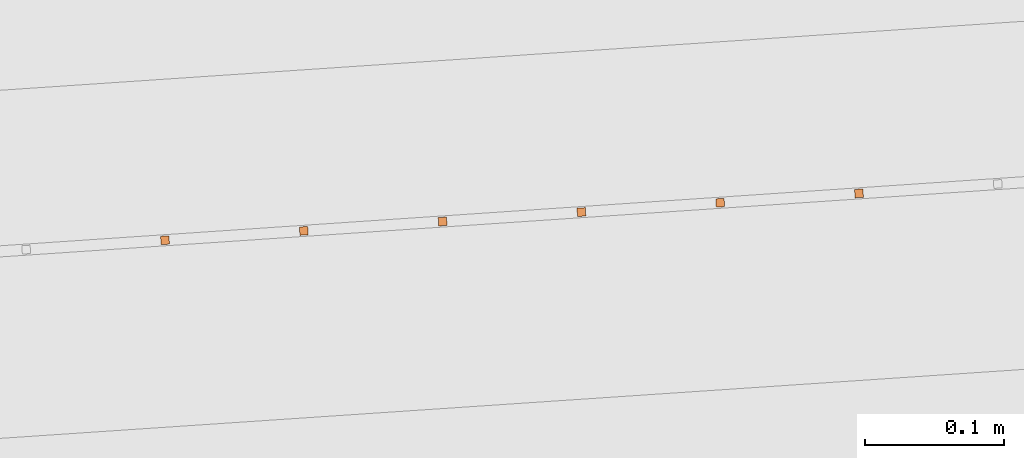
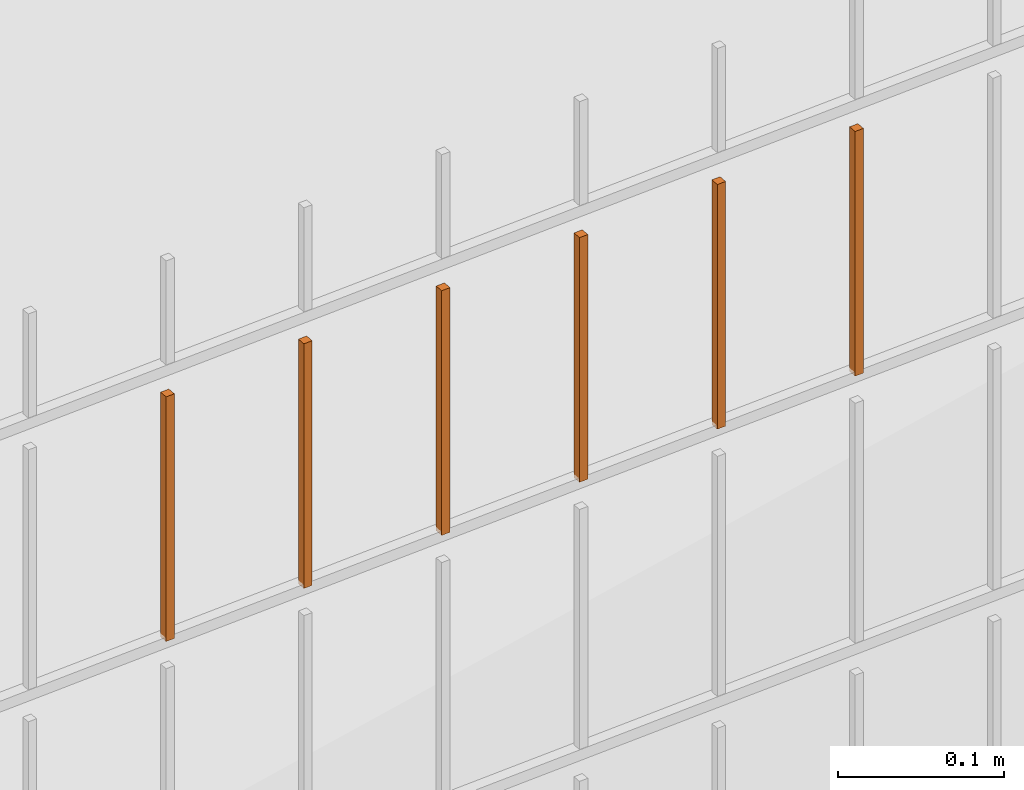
# One storey, part 102 of 1809: 6 proxies, 1 element without a shape of its own.
"""IFC2X3 building model written with IfcOpenShell, lengths in millimetres."""

from ifc_helpers import new_model, entity, si_unit, converted_unit, derived_unit, money_unit, direction, frame, origin_with_axes, place, context, subcontext, project, spatial, faceted_brep, source, transform, mapped, material, type_object, element, aggregate, save


model = new_model("IFC2X3")

# Units and contexts
model_context = context("Model", 3, precision=0.01, world=origin_with_axes(), true_north=direction((0.0, 1.0)))
body_context = subcontext(model_context, "Body", "Model", "MODEL_VIEW")
ifc_project = project(units=[si_unit("LENGTHUNIT", "METRE", prefix="MILLI"), si_unit("AREAUNIT", "SQUARE_METRE"), si_unit("VOLUMEUNIT", "CUBIC_METRE"), converted_unit("PLANEANGLEUNIT", "DEGREE", entity("IfcPlaneAngleMeasure", 0.0174532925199), si_unit("PLANEANGLEUNIT", "RADIAN"), dimensions=[0, 0, 0, 0, 0, 0, 0]), si_unit("SOLIDANGLEUNIT", "STERADIAN"), money_unit("EUR"), converted_unit("TIMEUNIT", "Year", entity("IfcTimeMeasure", 31556926.0), si_unit("TIMEUNIT", "SECOND"), dimensions=[0, 0, 1, 0, 0, 0, 0]), si_unit("MASSUNIT", "GRAM", prefix="KILO"), si_unit("THERMODYNAMICTEMPERATUREUNIT", "DEGREE_CELSIUS"), si_unit("LUMINOUSINTENSITYUNIT", "LUMEN"), si_unit("ENERGYUNIT", "JOULE", prefix="MEGA"), derived_unit("THERMALCONDUCTANCEUNIT", [(si_unit("POWERUNIT", "WATT"), 1), (si_unit("LENGTHUNIT", "METRE"), -1), (si_unit("THERMODYNAMICTEMPERATUREUNIT", "KELVIN"), -1)]), derived_unit("SPECIFICHEATCAPACITYUNIT", [(si_unit("ENERGYUNIT", "JOULE"), 1), (si_unit("MASSUNIT", "GRAM", prefix="KILO"), -1), (si_unit("THERMODYNAMICTEMPERATUREUNIT", "KELVIN"), -1)]), derived_unit("MASSDENSITYUNIT", [(si_unit("MASSUNIT", "GRAM", prefix="KILO"), 1), (si_unit("VOLUMEUNIT", "CUBIC_METRE"), -1)])], contexts=[model_context])

# Site, building, storey
site_placement = place(None, origin_with_axes())
site = spatial("IfcSite", under=ifc_project, at=site_placement, Name="Politse- ja Piirivalveameti ning Päästeameti ühishoone", CompositionType="ELEMENT")
building_placement = place(site_placement, origin_with_axes())
building = spatial("IfcBuilding", under=site, at=building_placement, Name="Politse- ja Piirivalveameti ning Päästeameti ühishoone", CompositionType="ELEMENT")
storey_placement = place(building_placement, origin_with_axes())
storey = spatial("IfcBuildingStorey", under=building, at=storey_placement, Name="Esimene korrus", CompositionType="ELEMENT", Elevation=0.0)

# Proxies
building_element_proxy_type_1 = type_object("IfcBuildingElementProxyType", Name="Railing Type", PredefinedType="NOTDEFINED")
proxy_1_placement = place(storey_placement, frame((89252.001212, -29183.4766571, 203.661247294), z_axis=(0.0, 0.0, 1.0), x_axis=(1.0, 0.0, 0.0)))
proxy_1 = element("IfcBuildingElementProxy", 1, at=proxy_1_placement, inside=storey, type_object=building_element_proxy_type_1, Name="PIIRDEAED")
ifc_material = material(Name="ET-03_Raud")
building_element_proxy_type_2 = type_object("IfcBuildingElementProxyType", Name="IfcBuildingElementProxy", PredefinedType="NOTDEFINED")
shared_shape_1 = source(origin_with_axes(), body_context, "Body", "Brep", [
    faceted_brep([(3.0, 3.0, -0.000752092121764), (-3.0, 3.0, -0.000752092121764), (-3.0, 3.0, 179.99926046), (3.0, 3.0, 179.99926046), (3.0, -3.0, 0.000752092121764), (-3.0, -3.0, 0.000752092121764), (-3.0, -3.0, 180.000764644), (3.0, -3.0, 180.000764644)], [[[0, 1, 2, 3]], [[0, 4, 5, 1]], [[1, 5, 6, 2]], [[3, 2, 6, 7]], [[4, 0, 3, 7]], [[5, 4, 7, 6]]]),
])
proxy_2_placement = place(proxy_1_placement, frame((-95509.0562385, -23749.0510723, 1803.23595622), z_axis=(0.0, 0.0, 1.0), x_axis=(1.0, 0.0, 0.0)))
proxy_2 = element("IfcBuildingElementProxy", 2, at=proxy_2_placement, type_object=building_element_proxy_type_2, material=ifc_material, Name="BALUSTER - 001", context=body_context, shape_type="MappedRepresentation", body=[
    mapped(shared_shape_1, transform((0.0, 0.0, 0.0), x_axis=(-0.0673926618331, 0.997726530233, 0.0), y_axis=(-0.997726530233, -0.0673926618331, 0.0), z_axis=(0.0, 0.0, 1.0))),
])
shared_shape_2 = source(origin_with_axes(), body_context, "Body", "Brep", [
    faceted_brep([(3.0, 3.0, -0.000752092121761), (-3.0, 3.0, -0.000752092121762), (-3.0, 3.0, 179.99926046), (3.0, 3.0, 179.99926046), (3.0, -3.0, 0.000752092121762), (-3.0, -3.0, 0.000752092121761), (-3.0, -3.0, 180.000764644), (3.0, -3.0, 180.000764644)], [[[0, 1, 2, 3]], [[0, 4, 5, 1]], [[1, 5, 6, 2]], [[3, 2, 6, 7]], [[4, 0, 3, 7]], [[5, 4, 7, 6]]]),
])
proxy_3_placement = place(proxy_1_placement, frame((-95608.8288915, -23755.7903385, 1803.21088648), z_axis=(0.0, 0.0, 1.0), x_axis=(1.0, 0.0, 0.0)))
proxy_3 = element("IfcBuildingElementProxy", 3, at=proxy_3_placement, type_object=building_element_proxy_type_2, material=ifc_material, Name="BALUSTER - 001", context=body_context, shape_type="MappedRepresentation", body=[
    mapped(shared_shape_2, transform((0.0, 0.0, 0.0), x_axis=(-0.0673926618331, 0.997726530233, 0.0), y_axis=(-0.997726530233, -0.0673926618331, 0.0), z_axis=(0.0, 0.0, 1.0))),
])
shared_shape_3 = source(origin_with_axes(), body_context, "Body", "Brep", [
    faceted_brep([(3.0, 3.0, -0.000752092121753), (-3.0, 3.0, -0.000752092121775), (-3.0, 3.0, 179.99926046), (3.0, 3.0, 179.99926046), (3.0, -3.0, 0.000752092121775), (-3.0, -3.0, 0.000752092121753), (-3.0, -3.0, 180.000764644), (3.0, -3.0, 180.000764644)], [[[0, 1, 2, 3]], [[0, 4, 5, 1]], [[1, 5, 6, 2]], [[3, 2, 6, 7]], [[4, 0, 3, 7]], [[5, 4, 7, 6]]]),
])
proxy_4_placement = place(proxy_1_placement, frame((-95708.6015445, -23762.5296047, 1803.18581675), z_axis=(0.0, 0.0, 1.0), x_axis=(1.0, 0.0, 0.0)))
proxy_4 = element("IfcBuildingElementProxy", 4, at=proxy_4_placement, type_object=building_element_proxy_type_2, material=ifc_material, Name="BALUSTER - 001", context=body_context, shape_type="MappedRepresentation", body=[
    mapped(shared_shape_3, transform((0.0, 0.0, 0.0), x_axis=(-0.0673926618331, 0.997726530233, 0.0), y_axis=(-0.997726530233, -0.0673926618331, 0.0), z_axis=(0.0, 0.0, 1.0))),
])
shared_shape_4 = source(origin_with_axes(), body_context, "Body", "Brep", [
    faceted_brep([(3.0, 3.0, -0.000752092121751), (-3.0, 3.0, -0.000752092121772), (-3.0, 3.0, 179.99926046), (3.0, 3.0, 179.99926046), (3.0, -3.0, 0.000752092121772), (-3.0, -3.0, 0.000752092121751), (-3.0, -3.0, 180.000764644), (3.0, -3.0, 180.000764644)], [[[0, 1, 2, 3]], [[0, 4, 5, 1]], [[1, 5, 6, 2]], [[3, 2, 6, 7]], [[4, 0, 3, 7]], [[5, 4, 7, 6]]]),
])
proxy_5_placement = place(proxy_1_placement, frame((-95808.3741976, -23769.2688709, 1803.16074701), z_axis=(0.0, 0.0, 1.0), x_axis=(1.0, 0.0, 0.0)))
proxy_5 = element("IfcBuildingElementProxy", 5, at=proxy_5_placement, type_object=building_element_proxy_type_2, material=ifc_material, Name="BALUSTER - 001", context=body_context, shape_type="MappedRepresentation", body=[
    mapped(shared_shape_4, transform((0.0, 0.0, 0.0), x_axis=(-0.0673926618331, 0.997726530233, 0.0), y_axis=(-0.997726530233, -0.0673926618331, 0.0), z_axis=(0.0, 0.0, 1.0))),
])
shared_shape_5 = source(origin_with_axes(), body_context, "Body", "Brep", [
    faceted_brep([(3.0, 3.0, -0.000752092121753), (-3.0, 3.0, -0.000752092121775), (-3.0, 3.0, 179.99926046), (3.0, 3.0, 179.99926046), (3.0, -3.0, 0.000752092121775), (-3.0, -3.0, 0.000752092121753), (-3.0, -3.0, 180.000764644), (3.0, -3.0, 180.000764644)], [[[0, 1, 2, 3]], [[0, 4, 5, 1]], [[1, 5, 6, 2]], [[3, 2, 6, 7]], [[4, 0, 3, 7]], [[5, 4, 7, 6]]]),
])
proxy_6_placement = place(proxy_1_placement, frame((-96007.9195036, -23782.7474033, 1803.11060754), z_axis=(0.0, 0.0, 1.0), x_axis=(1.0, 0.0, 0.0)))
proxy_6 = element("IfcBuildingElementProxy", 6, at=proxy_6_placement, type_object=building_element_proxy_type_2, material=ifc_material, Name="BALUSTER - 001", context=body_context, shape_type="MappedRepresentation", body=[
    mapped(shared_shape_5, transform((0.0, 0.0, 0.0), x_axis=(-0.0673926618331, 0.997726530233, 0.0), y_axis=(-0.997726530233, -0.0673926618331, 0.0), z_axis=(0.0, 0.0, 1.0))),
])
shared_shape_6 = source(origin_with_axes(), body_context, "Body", "Brep", [
    faceted_brep([(3.0, 3.0, -0.000752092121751), (-3.0, 3.0, -0.000752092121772), (-3.0, 3.0, 179.99926046), (3.0, 3.0, 179.99926046), (3.0, -3.0, 0.000752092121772), (-3.0, -3.0, 0.000752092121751), (-3.0, -3.0, 180.000764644), (3.0, -3.0, 180.000764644)], [[[0, 1, 2, 3]], [[0, 4, 5, 1]], [[1, 5, 6, 2]], [[3, 2, 6, 7]], [[4, 0, 3, 7]], [[5, 4, 7, 6]]]),
])
proxy_7_placement = place(proxy_1_placement, frame((-95908.1468506, -23776.0081371, 1803.13567727), z_axis=(0.0, 0.0, 1.0), x_axis=(1.0, 0.0, 0.0)))
proxy_7 = element("IfcBuildingElementProxy", 7, at=proxy_7_placement, type_object=building_element_proxy_type_2, material=ifc_material, Name="BALUSTER - 001", context=body_context, shape_type="MappedRepresentation", body=[
    mapped(shared_shape_6, transform((0.0, 0.0, 0.0), x_axis=(-0.0673926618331, 0.997726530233, 0.0), y_axis=(-0.997726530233, -0.0673926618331, 0.0), z_axis=(0.0, 0.0, 1.0))),
])
aggregate(proxy_1, [proxy_2, proxy_3, proxy_4, proxy_5, proxy_7, proxy_6])

save(model, "model.ifc")
